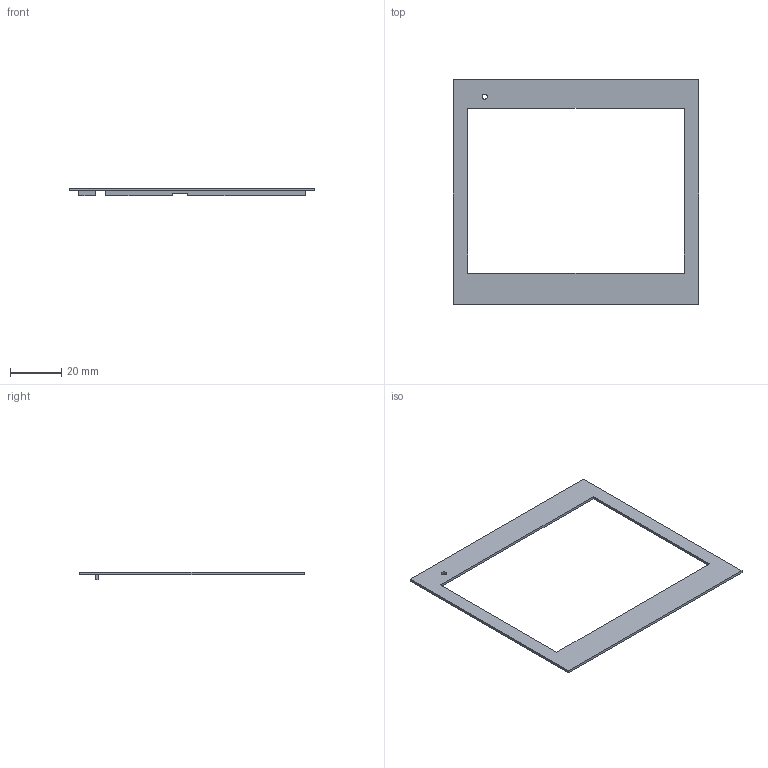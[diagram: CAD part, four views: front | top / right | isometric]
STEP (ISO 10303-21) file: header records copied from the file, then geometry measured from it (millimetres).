
FILE_DESCRIPTION(/* description */ ('STEP AP242','CAx-IF Rec.Pracs.---Representation and Presentation of Product Manufacturing Information (PMI)---4.0---2014-10-13','CAx-IF Rec.Pracs.---3D Tessellated Geometry---0.4---2014-09-14','2;1'),/* implementation_level */ '2;1');
FILE_NAME(/* name */ '676d3db8a686895630a1fc35',/* time_stamp */ '2024-12-26T11:27:56Z',/* author */ (''),/* organization */ (''),/* preprocessor_version */ 'ST-DEVELOPER v20',/* originating_system */ 'ONSHAPE BY PTC INC, 1.191',/* authorisation */ ' ');
FILE_SCHEMA (('AP242_MANAGED_MODEL_BASED_3D_ENGINEERING_MIM_LF { 1 0 10303 442 1 1 4 }'));
Length unit declared in the file: metre
Products named in the file (1): Frame 4
Bounding box: 95.2 x 87.2 x 3 mm (x, y, z)
Volume: 3084.3 mm3; surface area: 6845.7 mm2
Topology: 1 solids, 1 shells, 25 faces, 63 edges, 42 vertices
Faces by surface type: plane 24, cylinder 1
Full cylindrical faces by diameter (mm): 2 x1
Entity records: 764 total; most frequent: CARTESIAN_POINT 130, ORIENTED_EDGE 124, DIRECTION 116, EDGE_CURVE 62, LINE 60, VECTOR 60, VERTEX_POINT 42, EDGE_LOOP 32
